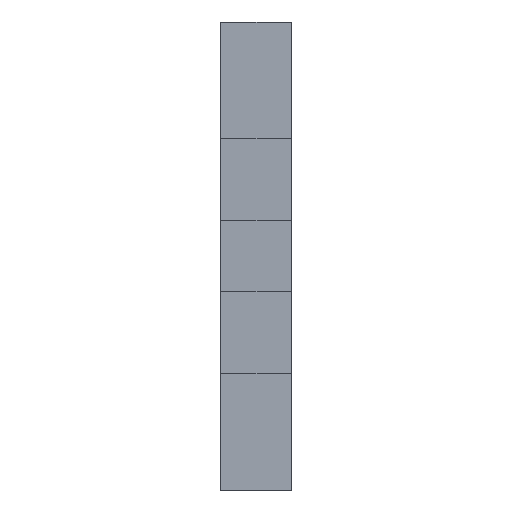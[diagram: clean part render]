
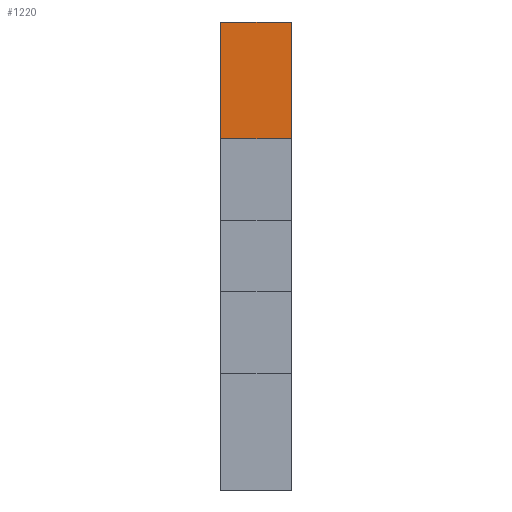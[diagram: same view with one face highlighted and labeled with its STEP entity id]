
A CAD part, left-side view. The second image highlights one B-rep face of the part: STEP entity #1220.
In plain terms, the highlighted planar face has unit normal (-1, 0, 0).
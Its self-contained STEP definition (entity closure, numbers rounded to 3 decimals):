
#279=ORIENTED_EDGE('',*,*,#444,.F.);
#280=ORIENTED_EDGE('',*,*,#547,.F.);
#281=ORIENTED_EDGE('',*,*,#506,.T.);
#282=ORIENTED_EDGE('',*,*,#545,.T.);
#444=EDGE_CURVE('',#613,#614,#720,.T.);
#506=EDGE_CURVE('',#675,#674,#764,.T.);
#545=EDGE_CURVE('',#674,#614,#803,.T.);
#547=EDGE_CURVE('',#675,#613,#805,.T.);
#613=VERTEX_POINT('',#1760);
#614=VERTEX_POINT('',#1762);
#674=VERTEX_POINT('',#1884);
#675=VERTEX_POINT('',#1886);
#720=LINE('',#1761,#860);
#764=LINE('',#1885,#904);
#803=LINE('',#1968,#943);
#805=LINE('',#1971,#945);
#860=VECTOR('',#1413,1000.);
#904=VECTOR('',#1495,1000.);
#943=VECTOR('',#1586,1000.);
#945=VECTOR('',#1590,1000.);
#1026=EDGE_LOOP('',(#279,#280,#281,#282));
#1112=FACE_BOUND('',#1026,.T.);
#1164=PLANE('',#1324);
#1220=ADVANCED_FACE('',(#1112),#1164,.T.);
#1324=AXIS2_PLACEMENT_3D('',#1970,#1588,#1589);
#1413=DIRECTION('',(0.,0.,-1.));
#1495=DIRECTION('',(0.,0.,-1.));
#1586=DIRECTION('',(0.,-1.,0.));
#1588=DIRECTION('',(-1.,0.,0.));
#1589=DIRECTION('',(0.,0.,1.));
#1590=DIRECTION('',(0.,-1.,0.));
#1760=CARTESIAN_POINT('',(-55.5,0.,10.));
#1761=CARTESIAN_POINT('',(-55.5,0.,10.));
#1762=CARTESIAN_POINT('',(-55.5,0.,5.));
#1884=CARTESIAN_POINT('',(-55.5,3.,5.));
#1885=CARTESIAN_POINT('',(-55.5,3.,10.));
#1886=CARTESIAN_POINT('',(-55.5,3.,10.));
#1968=CARTESIAN_POINT('',(-55.5,3.,5.));
#1970=CARTESIAN_POINT('',(-55.5,3.,10.));
#1971=CARTESIAN_POINT('',(-55.5,3.,10.));
